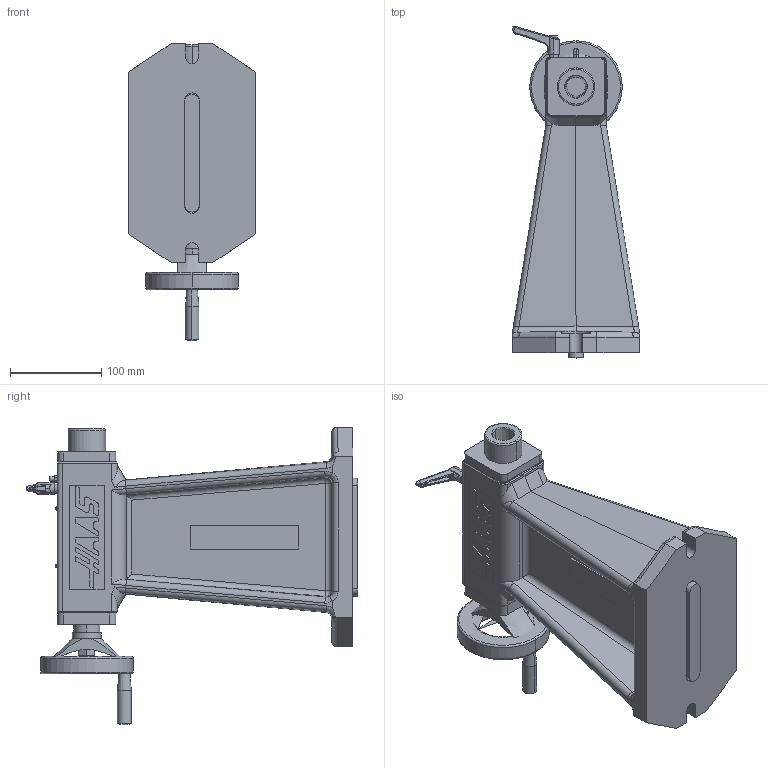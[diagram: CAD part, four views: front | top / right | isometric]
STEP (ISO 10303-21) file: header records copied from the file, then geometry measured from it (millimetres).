
FILE_DESCRIPTION (( 'STEP AP214' ), '1' );
FILE_NAME ('HTS11.5_STEP_2020-03.STEP', '2020-03-31T23:40:08', ( '' ), ( '' ), 'SwSTEP 2.0', 'SolidWorks 2019', '' );
FILE_SCHEMA (( 'AUTOMOTIVE_DESIGN' ));
Length unit declared in the file: inch
Products named in the file (1): HTS11.5_STEP_2020-03
Bounding box: 139.7 x 364.5 x 326.59 mm (x, y, z)
Volume: 2865514.7 mm3; surface area: 324027 mm2
Topology: 1 solids, 2 shells, 711 faces, 1923 edges, 1225 vertices
Faces by surface type: plane 292, cylinder 250, bspline 82, cone 61, torus 14, sphere 12
Entity records: 32958 total; most frequent: CARTESIAN_POINT 12101, ORIENTED_EDGE 3846, DIRECTION 3334, EDGE_CURVE 1923, VERTEX_POINT 1225, AXIS2_PLACEMENT_3D 1184, LINE 966, VECTOR 966
